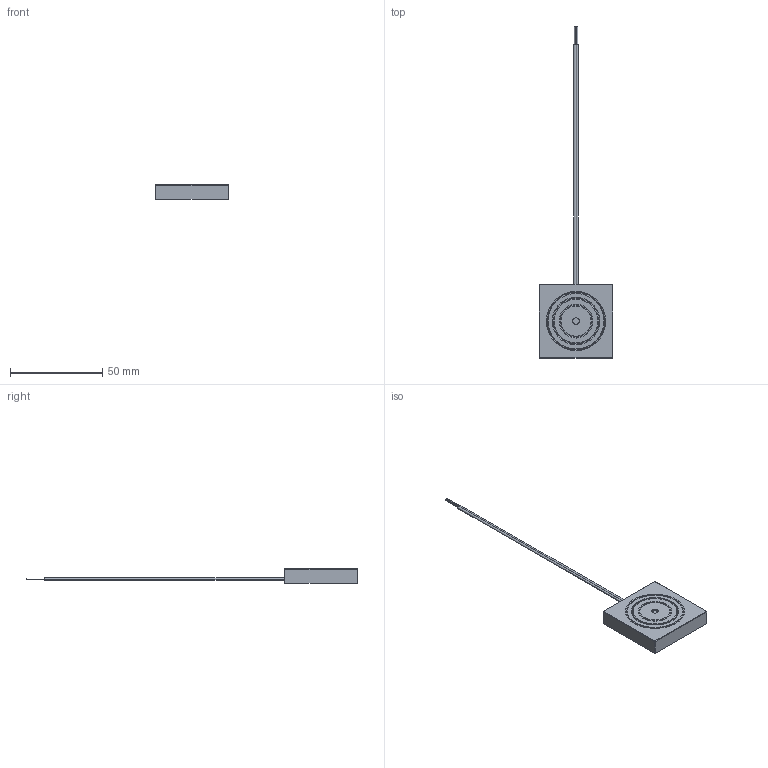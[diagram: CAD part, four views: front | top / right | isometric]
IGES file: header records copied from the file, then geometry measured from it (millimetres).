
Global section: file name: No Iges File Name specified; native system: AutoDesk Inventor R12.0; preprocessor: AutoDesk Inventor Iges Exporter R12.0; date: 20090219.163112; units: millimetre
Bounding box: 40 x 180 x 8.1 mm (x, y, z)
Volume: 4286.4 mm3; surface area: 12157.1 mm2
Topology: 2 solids, 2 shells, 101 faces, 226 edges, 144 vertices
Faces by surface type: plane 39, bspline 34, cylinder 20, revolution 4, sphere 4
